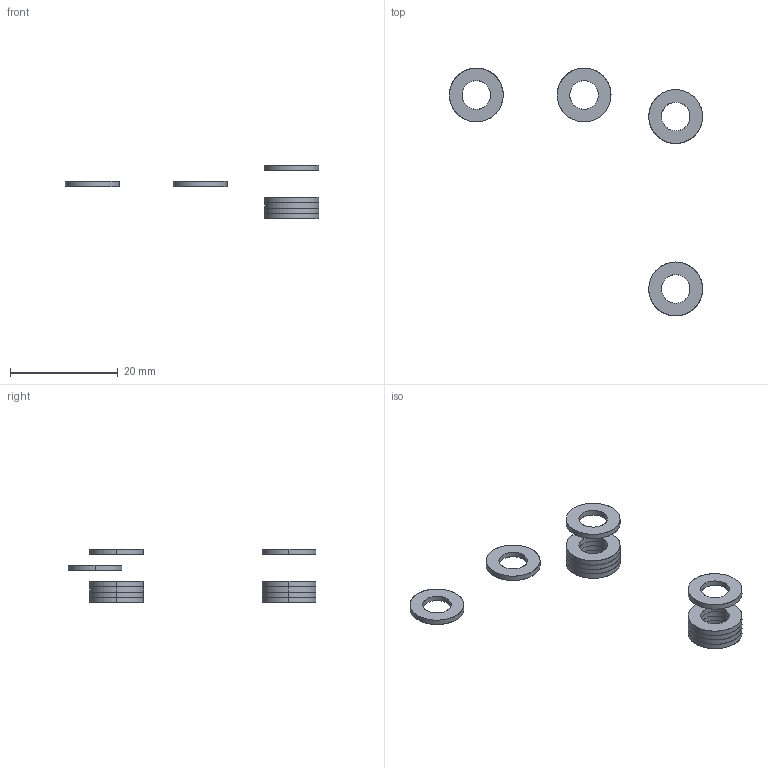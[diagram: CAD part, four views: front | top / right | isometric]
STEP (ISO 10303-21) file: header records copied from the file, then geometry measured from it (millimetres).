
FILE_DESCRIPTION(/* description */ (''),/* implementation_level */ '2;1');
FILE_NAME(/* name */ '8.x-drive#8.3#PWF5',/* time_stamp */ '2014-12-01T20:18:09+01:00',/* author */ (''),/* organization */ (''),/* preprocessor_version */ 'ST-DEVELOPER v14',/* originating_system */ '',/* authorisation */ '');
FILE_SCHEMA (('AUTOMOTIVE_DESIGN'));
Length unit declared in the file: millimetre
Products named in the file (2): Document; washer DIN125-like, form A, M5
Assembly tree (2 placements, depth 2):
  Document
    washer DIN125-like, form A, M5  x2
Bounding box: 47 x 46 x 10 mm (x, y, z)
Surface area: 1930.6 mm2 (no closed solid volume)
Topology: 0 solids, 72 shells, 72 faces, 240 edges, 240 vertices
Faces by surface type: bspline 48, plane 24
Entity records: 5491 total; most frequent: CARTESIAN_POINT 2799, B_SPLINE_CURVE_WITH_KNOTS 264, ORIENTED_EDGE 220, PCURVE 220, DEFINITIONAL_REPRESENTATION 220, SURFACE_CURVE 220, EDGE_CURVE 220, VERTEX_POINT 220
